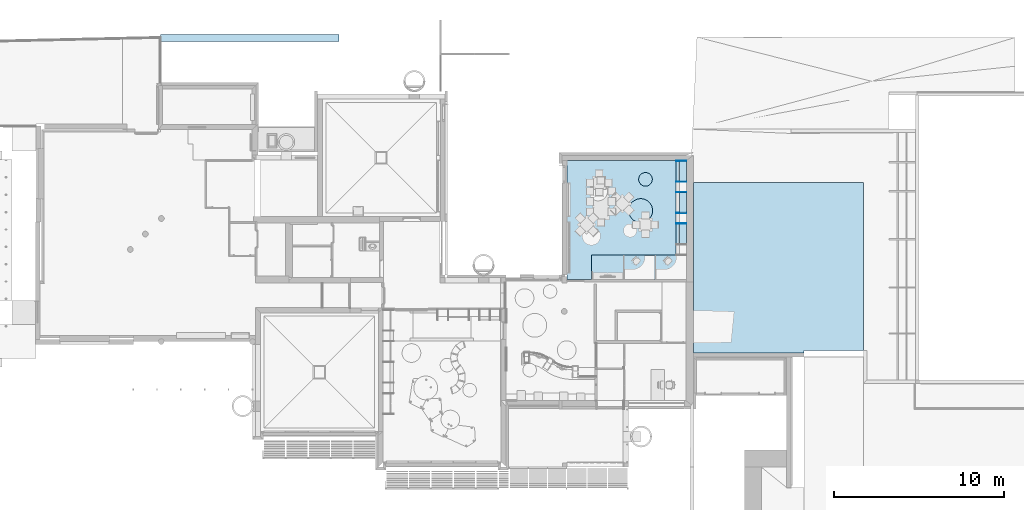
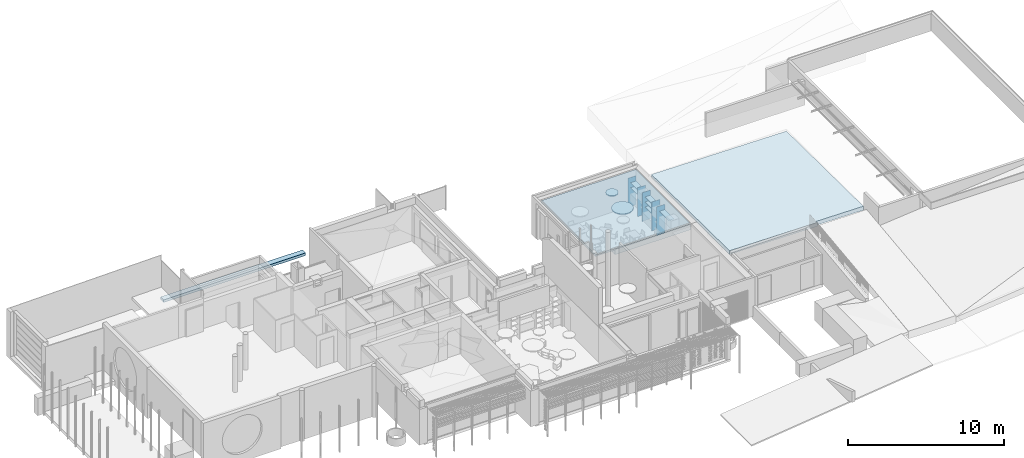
# One storey, part 14 of 64: 17 slabs.
"""IFC2X3 building model written with IfcOpenShell, lengths in metres."""

from ifc_helpers import new_model, entity, si_unit, converted_unit, derived_unit, direction, frame, frame_2d, origin, place, context, subcontext, project, spatial, polyline, rectangle, circle, outline, extrude, material, layer, layer_set, layer_usage, type_object, element, save


model = new_model("IFC2X3")

# Units and contexts
model_context = context("Model", 3, precision=1e-05, world=origin(), true_north=direction((6.123031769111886e-17, 1.0)))
body_context = subcontext(model_context, "Body", "Model", "MODEL_VIEW")
ifc_project = project(units=[si_unit("LENGTHUNIT", "METRE"), si_unit("AREAUNIT", "SQUARE_METRE"), si_unit("VOLUMEUNIT", "CUBIC_METRE"), converted_unit("PLANEANGLEUNIT", "DEGREE", entity("IfcRatioMeasure", 0.017453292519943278), si_unit("PLANEANGLEUNIT", "RADIAN"), dimensions=[0, 0, 0, 0, 0, 0, 0]), si_unit("MASSUNIT", "GRAM", prefix="KILO"), derived_unit("MASSDENSITYUNIT", [(si_unit("MASSUNIT", "GRAM", prefix="KILO"), 1), (si_unit("LENGTHUNIT", "METRE"), -3)]), derived_unit("MOMENTOFINERTIAUNIT", [(si_unit("LENGTHUNIT", "METRE"), 4)]), si_unit("TIMEUNIT", "SECOND"), si_unit("FREQUENCYUNIT", "HERTZ"), si_unit("THERMODYNAMICTEMPERATUREUNIT", "DEGREE_CELSIUS"), derived_unit("THERMALTRANSMITTANCEUNIT", [(si_unit("MASSUNIT", "GRAM", prefix="KILO"), 1), (si_unit("THERMODYNAMICTEMPERATUREUNIT", "KELVIN"), -1), (si_unit("TIMEUNIT", "SECOND"), -3)]), derived_unit("THERMALCONDUCTANCEUNIT", [(si_unit("MASSUNIT", "GRAM", prefix="KILO"), 1), (si_unit("LENGTHUNIT", "METRE"), 1), (si_unit("THERMODYNAMICTEMPERATUREUNIT", "KELVIN"), -1), (si_unit("TIMEUNIT", "SECOND"), -3)]), derived_unit("VOLUMETRICFLOWRATEUNIT", [(si_unit("LENGTHUNIT", "METRE"), 3), (si_unit("TIMEUNIT", "SECOND"), -1)]), derived_unit("MASSFLOWRATEUNIT", [(si_unit("MASSUNIT", "GRAM", prefix="KILO"), 1), (si_unit("TIMEUNIT", "SECOND"), -1)]), derived_unit("ROTATIONALFREQUENCYUNIT", [(si_unit("TIMEUNIT", "SECOND"), -1)]), si_unit("ELECTRICCURRENTUNIT", "AMPERE"), si_unit("ELECTRICVOLTAGEUNIT", "VOLT"), si_unit("POWERUNIT", "WATT"), si_unit("FORCEUNIT", "NEWTON", prefix="KILO"), si_unit("ILLUMINANCEUNIT", "LUX"), si_unit("LUMINOUSFLUXUNIT", "LUMEN"), si_unit("LUMINOUSINTENSITYUNIT", "CANDELA"), derived_unit("USERDEFINED", [(si_unit("MASSUNIT", "GRAM", prefix="KILO"), -1), (si_unit("LENGTHUNIT", "METRE"), -2), (si_unit("TIMEUNIT", "SECOND"), 3), (si_unit("LUMINOUSFLUXUNIT", "LUMEN"), 1)]), derived_unit("USERDEFINED", [(si_unit("MASSUNIT", "GRAM", prefix="KILO"), 1), (si_unit("LENGTHUNIT", "METRE"), 3), (si_unit("TIMEUNIT", "SECOND"), -3), (si_unit("ELECTRICCURRENTUNIT", "AMPERE"), -2)]), derived_unit("USERDEFINED", [(si_unit("LENGTHUNIT", "METRE"), 2), (si_unit("TIMEUNIT", "SECOND"), -2)]), derived_unit("SOUNDPOWERUNIT", [(si_unit("MASSUNIT", "GRAM", prefix="KILO"), 1), (si_unit("LENGTHUNIT", "METRE"), 2), (si_unit("TIMEUNIT", "SECOND"), -3)]), derived_unit("SOUNDPRESSUREUNIT", [(si_unit("MASSUNIT", "GRAM", prefix="KILO"), 1), (si_unit("LENGTHUNIT", "METRE"), -1), (si_unit("TIMEUNIT", "SECOND"), -2)]), derived_unit("LINEARVELOCITYUNIT", [(si_unit("LENGTHUNIT", "METRE"), 1), (si_unit("TIMEUNIT", "SECOND"), -1)]), si_unit("PRESSUREUNIT", "PASCAL"), derived_unit("USERDEFINED", [(si_unit("LENGTHUNIT", "METRE"), -2), (si_unit("MASSUNIT", "GRAM", prefix="KILO"), 1), (si_unit("TIMEUNIT", "SECOND"), -2)]), derived_unit("LINEARFORCEUNIT", [(si_unit("MASSUNIT", "GRAM", prefix="KILO"), 1), (si_unit("LENGTHUNIT", "METRE"), 1), (si_unit("TIMEUNIT", "SECOND"), -2), (si_unit("LENGTHUNIT", "METRE"), -1)]), derived_unit("PLANARFORCEUNIT", [(si_unit("MASSUNIT", "GRAM", prefix="KILO"), 1), (si_unit("LENGTHUNIT", "METRE"), 1), (si_unit("TIMEUNIT", "SECOND"), -2), (si_unit("LENGTHUNIT", "METRE"), -2)]), derived_unit("SPECIFICHEATCAPACITYUNIT", [(si_unit("LENGTHUNIT", "METRE"), 2), (si_unit("TIMEUNIT", "SECOND"), -2), (si_unit("THERMODYNAMICTEMPERATUREUNIT", "KELVIN"), -1)]), derived_unit("VAPORPERMEABILITYUNIT", [(si_unit("TIMEUNIT", "SECOND"), 1), (si_unit("LENGTHUNIT", "METRE"), -1)]), derived_unit("DYNAMICVISCOSITYUNIT", [(si_unit("MASSUNIT", "GRAM", prefix="KILO"), 1), (si_unit("LENGTHUNIT", "METRE"), -1), (si_unit("TIMEUNIT", "SECOND"), -1)]), derived_unit("THERMALEXPANSIONCOEFFICIENTUNIT", [(si_unit("THERMODYNAMICTEMPERATUREUNIT", "KELVIN"), -1)])], contexts=[model_context])

# Site, building, storey
site_placement = place(None, origin())
site = spatial("IfcSite", under=ifc_project, at=site_placement, Name="Default", CompositionType="ELEMENT")
building_placement = place(site_placement, origin())
building = spatial("IfcBuilding", under=site, at=building_placement, CompositionType="ELEMENT")
storey_placement = place(building_placement, origin())
storey = spatial("IfcBuildingStorey", under=building, at=storey_placement, Name="REZ-DE-CHAUSSÉE", CompositionType="ELEMENT", Elevation=0.0)

# Slabs
ifc_material_1 = material(Name="Enduit - Jaune nature")
slab_type_1 = type_object("IfcSlabType", Name="Toit-02", PredefinedType="ROOF", material=ifc_material_1)
slab_1_placement = place(storey_placement, origin())
element("IfcSlab", 1, at=slab_1_placement, inside=storey, type_object=slab_type_1, Name="Toit-02 284151:Toit-02 284151", ObjectType="Toit-02 284151:Toit-02 284151", PredefinedType="ROOF", context=body_context, shape_type="SweptSolid", body=[
    extrude(outline(polyline([(-3.3896885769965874, 0.9992813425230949), (-3.3904250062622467, -5.49991765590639), (6.630138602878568, -5.499926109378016), (6.631271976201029, 4.5006363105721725), (-3.240450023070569, 4.500644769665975), (-3.2408469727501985, 0.9992813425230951), (-3.3896885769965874, 0.9992813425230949)])), frame((133.90036348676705, 14.276820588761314, 2.679156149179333), z_axis=(-0.010605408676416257, -0.010605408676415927, -0.9998875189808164), x_axis=(8.435649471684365e-07, 0.9999437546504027, -0.010606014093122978)), (0.0, 0.0, -1.0), 0.3000083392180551),
])
ifc_material_2 = material(Name="Isolation - Fibre de verre")
ifc_layer_1 = layer(ifc_material_2, 0.12)
ifc_material_3 = material(Name="Plâtre - Plaques de plâtre")
ifc_layer_2 = layer(ifc_material_3, 0.02)
ifc_layer_set_1 = layer_set([ifc_layer_1, ifc_layer_2], Name="Sol:Dalle-007:1404")
ifc_layer_usage_1 = layer_usage(ifc_layer_set_1, "AXIS3", "POSITIVE", 0.0)
slab_type_2 = type_object("IfcSlabType", Name="Sol:Dalle-007:1404", PredefinedType="FLOOR", material=ifc_layer_set_1)
slab_2_placement = place(storey_placement, origin())
element("IfcSlab", 2, at=slab_2_placement, inside=storey, type_object=slab_type_2, material=ifc_layer_usage_1, Name="Sol:Dalle-007:1404", ObjectType="Sol:Dalle-007:1404", PredefinedType="FLOOR", context=body_context, shape_type="SweptSolid", body=[
    extrude(rectangle(XDim=6.980000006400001, YDim=7.019999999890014, at=frame_2d((1.1102230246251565e-15, 0.0), x_axis=(1.0, 0.0))), frame((124.480752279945, 18.697209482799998, 2.74), z_axis=(0.0, 0.0, -1.0), x_axis=(0.0, 1.0, 0.0)), (0.0, 0.0, 1.0), 0.14000000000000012),
])
ifc_material_4 = material(Name="Bois - Pin granuleux horizontal")
ifc_layer_3 = layer(ifc_material_4, 0.02)
ifc_layer_set_2 = layer_set([ifc_layer_3], Name="Sol:Dalle-007:1415")
ifc_layer_usage_2 = layer_usage(ifc_layer_set_2, "AXIS3", "POSITIVE", 0.0)
slab_type_3 = type_object("IfcSlabType", Name="Sol:Dalle-007:1415", PredefinedType="FLOOR", material=ifc_layer_set_2)
slab_3_placement = place(storey_placement, origin())
element("IfcSlab", 3, at=slab_3_placement, inside=storey, type_object=slab_type_3, material=ifc_layer_usage_2, Name="Sol:Dalle-007:1415", ObjectType="Sol:Dalle-007:1415", PredefinedType="FLOOR", context=body_context, shape_type="SweptSolid", body=[
    extrude(rectangle(XDim=1.2000000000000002, YDim=0.3999999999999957, at=frame_2d((-2.1649348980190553e-15, -8.659739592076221e-15), x_axis=(1.0, 0.0))), frame((127.79075227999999, 21.557209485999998, 1.46), z_axis=(0.0, 0.0, -1.0), x_axis=(0.0, 1.0, 0.0)), (0.0, 0.0, 1.0), 0.020000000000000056),
])
slab_4_placement = place(storey_placement, origin())
element("IfcSlab", 4, at=slab_4_placement, inside=storey, type_object=slab_type_3, material=ifc_layer_usage_2, Name="Sol:Dalle-007:1415", ObjectType="Sol:Dalle-007:1415", PredefinedType="FLOOR", context=body_context, shape_type="SweptSolid", body=[
    extrude(rectangle(XDim=1.2000000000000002, YDim=0.3999999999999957, at=frame_2d((-2.1649348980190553e-15, -8.659739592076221e-15), x_axis=(1.0, 0.0))), frame((127.79075227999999, 21.557209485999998, 1.85), z_axis=(0.0, 0.0, -1.0), x_axis=(0.0, 1.0, 0.0)), (0.0, 0.0, 1.0), 0.020000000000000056),
])
slab_5_placement = place(storey_placement, origin())
element("IfcSlab", 5, at=slab_5_placement, inside=storey, type_object=slab_type_3, material=ifc_layer_usage_2, Name="Sol:Dalle-007:1415", ObjectType="Sol:Dalle-007:1415", PredefinedType="FLOOR", context=body_context, shape_type="SweptSolid", body=[
    extrude(rectangle(XDim=1.199999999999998, YDim=0.3999999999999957, at=frame_2d((-1.1102230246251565e-15, -8.659739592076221e-15), x_axis=(1.0, 0.0))), frame((127.79075227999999, 17.877209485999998, 1.85), z_axis=(0.0, 0.0, -1.0), x_axis=(0.0, 1.0, 0.0)), (0.0, 0.0, 1.0), 0.020000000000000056),
])
slab_6_placement = place(storey_placement, origin())
element("IfcSlab", 6, at=slab_6_placement, inside=storey, type_object=slab_type_3, material=ifc_layer_usage_2, Name="Sol:Dalle-007:1415", ObjectType="Sol:Dalle-007:1415", PredefinedType="FLOOR", context=body_context, shape_type="SweptSolid", body=[
    extrude(rectangle(XDim=1.2000000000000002, YDim=0.3999999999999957, at=frame_2d((-2.1649348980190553e-15, -8.659739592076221e-15), x_axis=(1.0, 0.0))), frame((127.79075227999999, 19.717209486, 1.07), z_axis=(0.0, 0.0, -1.0), x_axis=(0.0, 1.0, 0.0)), (0.0, 0.0, 1.0), 0.020000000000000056),
])
slab_7_placement = place(storey_placement, origin())
element("IfcSlab", 7, at=slab_7_placement, inside=storey, type_object=slab_type_3, material=ifc_layer_usage_2, Name="Sol:Dalle-007:1415", ObjectType="Sol:Dalle-007:1415", PredefinedType="FLOOR", context=body_context, shape_type="SweptSolid", body=[
    extrude(rectangle(XDim=1.2000000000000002, YDim=0.3999999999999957, at=frame_2d((-2.1649348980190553e-15, -8.659739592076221e-15), x_axis=(1.0, 0.0))), frame((127.79075227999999, 19.717209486, 1.85), z_axis=(0.0, 0.0, -1.0), x_axis=(0.0, 1.0, 0.0)), (0.0, 0.0, 1.0), 0.020000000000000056),
])
slab_8_placement = place(storey_placement, origin())
element("IfcSlab", 8, at=slab_8_placement, inside=storey, type_object=slab_type_3, material=ifc_layer_usage_2, Name="Sol:Dalle-007:1415", ObjectType="Sol:Dalle-007:1415", PredefinedType="FLOOR", context=body_context, shape_type="SweptSolid", body=[
    extrude(rectangle(XDim=1.2000000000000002, YDim=0.3999999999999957, at=frame_2d((-2.1649348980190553e-15, -8.659739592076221e-15), x_axis=(1.0, 0.0))), frame((127.79075227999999, 19.717209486, 1.46), z_axis=(0.0, 0.0, -1.0), x_axis=(0.0, 1.0, 0.0)), (0.0, 0.0, 1.0), 0.020000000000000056),
])
ifc_layer_4 = layer(ifc_material_4, 0.06)
ifc_layer_set_3 = layer_set([ifc_layer_4], Name="Sol:Dalle-006:1419")
ifc_layer_usage_3 = layer_usage(ifc_layer_set_3, "AXIS3", "POSITIVE", 0.0)
slab_type_4 = type_object("IfcSlabType", Name="Sol:Dalle-006:1419", PredefinedType="FLOOR", material=ifc_layer_set_3)
slab_9_placement = place(storey_placement, origin())
element("IfcSlab", 9, at=slab_9_placement, inside=storey, type_object=slab_type_4, material=ifc_layer_usage_3, Name="Sol:Dalle-006:1419", ObjectType="Sol:Dalle-006:1419", PredefinedType="FLOOR", context=body_context, shape_type="SweptSolid", body=[
    extrude(circle(Radius=0.6999999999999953, at=frame_2d((-1.8761619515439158e-28, 8.662937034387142e-15), x_axis=(1.0, 0.0))), frame((125.307498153, 19.251946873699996, 2.4599999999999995), z_axis=(0.0, 0.0, -1.0), x_axis=(-1.0, 0.0, 0.0)), (0.0, 0.0, 1.0), 0.059999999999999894),
])
slab_10_placement = place(storey_placement, origin())
element("IfcSlab", 10, at=slab_10_placement, inside=storey, type_object=slab_type_4, material=ifc_layer_usage_3, Name="Sol:Dalle-006:1419", ObjectType="Sol:Dalle-006:1419", PredefinedType="FLOOR", context=body_context, shape_type="SweptSolid", body=[
    extrude(circle(Radius=0.3999999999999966, at=frame_2d((-2.8142429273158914e-28, 8.662937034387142e-15), x_axis=(1.0, 0.0))), frame((125.59075227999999, 21.087209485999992, 2.4599999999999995), z_axis=(0.0, 0.0, -1.0), x_axis=(-1.0, 0.0, 0.0)), (0.0, 0.0, 1.0), 0.059999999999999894),
])
ifc_material_5 = material(Name="Peinture - Blanc brillant")
ifc_layer_5 = layer(ifc_material_5, 0.4)
ifc_layer_6 = layer(ifc_material_3, 0.013)
ifc_layer_set_4 = layer_set([ifc_layer_5, ifc_layer_6], Name="Sol:Dalle-010:1502")
ifc_layer_usage_4 = layer_usage(ifc_layer_set_4, "AXIS3", "POSITIVE", 0.0)
slab_type_5 = type_object("IfcSlabType", Name="Sol:Dalle-010:1502", PredefinedType="FLOOR", material=ifc_layer_set_4)
slab_11_placement = place(storey_placement, origin())
element("IfcSlab", 11, at=slab_11_placement, inside=storey, type_object=slab_type_5, material=ifc_layer_usage_4, Name="Sol:Dalle-010:1502", ObjectType="Sol:Dalle-010:1502", PredefinedType="FLOOR", context=body_context, shape_type="SweptSolid", body=[
    extrude(outline(polyline([(-2.8000000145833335, -3.5199999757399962), (-1.3799999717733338, -3.5199999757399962), (-1.3799999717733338, 1.4599999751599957), (4.179999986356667, 1.4599999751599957), (4.179999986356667, 2.0600000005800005), (-2.8000000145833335, 2.0600000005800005), (-2.8000000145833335, -3.5199999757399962)])), frame((125.93075225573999, 18.007209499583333, 2.6499999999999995), z_axis=(0.0, 0.0, -1.0), x_axis=(0.0, 1.0, 0.0)), (0.0, 0.0, 1.0), 0.41300000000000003),
])
ifc_material_6 = material(Name="Isolation - Polystyrène")
ifc_layer_7 = layer(ifc_material_6, 0.199960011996)
ifc_layer_set_5 = layer_set([ifc_layer_7], Name="Toit de base:Toit-02:1506")
ifc_layer_usage_5 = layer_usage(ifc_layer_set_5, "AXIS3", "NEGATIVE", 0.0)
slab_type_6 = type_object("IfcSlabType", Name="Toit-02", PredefinedType="ROOF")
slab_12_placement = place(storey_placement, origin())
element("IfcSlab", 12, at=slab_12_placement, inside=storey, type_object=slab_type_6, material=ifc_layer_usage_5, Name="Toit de base:Toit-02:1506", ObjectType="Toit de base:Toit-02:1506", PredefinedType="ROOF", context=body_context, shape_type="SweptSolid", body=[
    extrude(rectangle(XDim=10.499992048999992, YDim=0.3999996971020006, at=frame_2d((8.43769498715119e-15, 2.1649348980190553e-15), x_axis=(1.0, 0.0))), frame((102.3319868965, 29.390132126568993, -1.1099999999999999)), (0.0, 0.0, 1.0), 0.19996001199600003),
])
ifc_layer_8 = layer(ifc_material_4, 2.25)
ifc_layer_set_6 = layer_set([ifc_layer_8], Name="Sol:Dalle-006:1523")
ifc_layer_usage_6 = layer_usage(ifc_layer_set_6, "AXIS3", "POSITIVE", 0.0)
slab_type_7 = type_object("IfcSlabType", Name="Sol:Dalle-006:1523", PredefinedType="FLOOR", material=ifc_layer_set_6)
slab_13_placement = place(storey_placement, origin())
element("IfcSlab", 13, at=slab_13_placement, inside=storey, type_object=slab_type_7, material=ifc_layer_usage_6, Name="Sol:Dalle-006:1523", ObjectType="Sol:Dalle-006:1523", PredefinedType="FLOOR", context=body_context, shape_type="SweptSolid", body=[
    extrude(rectangle(XDim=0.019999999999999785, YDim=0.5999999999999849, at=frame_2d((0.0, 8.659739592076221e-15), x_axis=(1.0, 0.0))), frame((127.69075227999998, 18.487209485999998, 2.25), z_axis=(0.0, 0.0, -1.0), x_axis=(0.0, 1.0, 0.0)), (0.0, 0.0, 1.0), 2.25),
])
slab_14_placement = place(storey_placement, origin())
element("IfcSlab", 14, at=slab_14_placement, inside=storey, type_object=slab_type_7, material=ifc_layer_usage_6, Name="Sol:Dalle-006:1523", ObjectType="Sol:Dalle-006:1523", PredefinedType="FLOOR", context=body_context, shape_type="SweptSolid", body=[
    extrude(rectangle(XDim=0.019999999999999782, YDim=0.5999999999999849, at=frame_2d((-2.1658022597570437e-15, 8.659739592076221e-15), x_axis=(1.0, 0.0))), frame((127.69075227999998, 20.327209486, 2.25), z_axis=(0.0, 0.0, -1.0), x_axis=(0.0, 1.0, 0.0)), (0.0, 0.0, 1.0), 2.25),
])
slab_15_placement = place(storey_placement, origin())
element("IfcSlab", 15, at=slab_15_placement, inside=storey, type_object=slab_type_7, material=ifc_layer_usage_6, Name="Sol:Dalle-006:1523", ObjectType="Sol:Dalle-006:1523", PredefinedType="FLOOR", context=body_context, shape_type="SweptSolid", body=[
    extrude(rectangle(XDim=0.019999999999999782, YDim=0.5999999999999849, at=frame_2d((-2.1658022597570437e-15, 8.659739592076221e-15), x_axis=(1.0, 0.0))), frame((127.69075227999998, 20.947209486, 2.25), z_axis=(0.0, 0.0, -1.0), x_axis=(0.0, 1.0, 0.0)), (0.0, 0.0, 1.0), 2.25),
])
slab_16_placement = place(storey_placement, origin())
element("IfcSlab", 16, at=slab_16_placement, inside=storey, type_object=slab_type_7, material=ifc_layer_usage_6, Name="Sol:Dalle-006:1523", ObjectType="Sol:Dalle-006:1523", PredefinedType="FLOOR", context=body_context, shape_type="SweptSolid", body=[
    extrude(rectangle(XDim=0.019999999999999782, YDim=0.5999999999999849, at=frame_2d((-2.1658022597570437e-15, 8.659739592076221e-15), x_axis=(1.0, 0.0))), frame((127.69075227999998, 22.167209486, 2.25), z_axis=(0.0, 0.0, -1.0), x_axis=(0.0, 1.0, 0.0)), (0.0, 0.0, 1.0), 2.25),
])
slab_17_placement = place(storey_placement, origin())
element("IfcSlab", 17, at=slab_17_placement, inside=storey, type_object=slab_type_7, material=ifc_layer_usage_6, Name="Sol:Dalle-006:1523", ObjectType="Sol:Dalle-006:1523", PredefinedType="FLOOR", context=body_context, shape_type="SweptSolid", body=[
    extrude(rectangle(XDim=0.019999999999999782, YDim=0.5999999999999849, at=frame_2d((-2.1658022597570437e-15, 8.659739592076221e-15), x_axis=(1.0, 0.0))), frame((127.69075227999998, 19.107209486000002, 2.25), z_axis=(0.0, 0.0, -1.0), x_axis=(0.0, 1.0, 0.0)), (0.0, 0.0, 1.0), 2.25),
])

save(model, "model.ifc")
